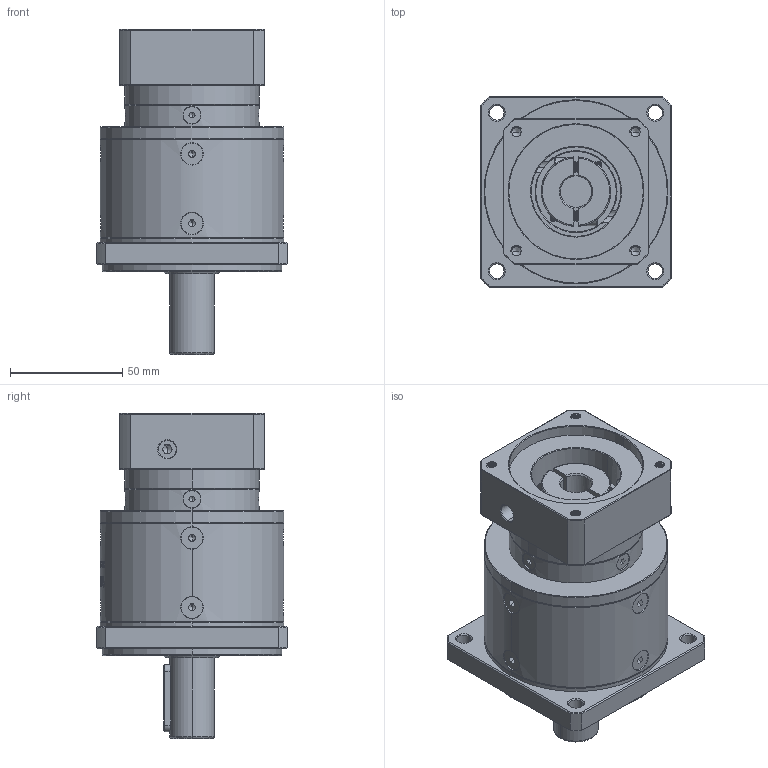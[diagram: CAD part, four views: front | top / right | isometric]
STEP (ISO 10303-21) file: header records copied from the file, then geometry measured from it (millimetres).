
FILE_DESCRIPTION (( 'STEP AP214' ), '1' );
FILE_NAME ('ZF80-D20-L2-14-60-75-M5.step', '2022-05-08T09:23:16', ( '' ), ( 'Microsoft' ), 'SwSTEP 2.0', 'SolidWorks 2016', '' );
FILE_SCHEMA (( 'AUTOMOTIVE_DESIGN' ));
Length unit declared in the file: millimetre
Products named in the file (1): ZF80-D20-L2-14-60-75-M5
Bounding box: 85 x 85 x 145 mm (x, y, z)
Volume: 481767.2 mm3; surface area: 70482.1 mm2
Topology: 18 solids, 18 shells, 2047 faces, 5349 edges, 3399 vertices
Faces by surface type: plane 953, cylinder 425, bspline 328, cone 327, torus 14
Entity records: 111013 total; most frequent: CARTESIAN_POINT 41715, ORIENTED_EDGE 10622, DIRECTION 8474, EDGE_CURVE 5311, VERTEX_POINT 3399, LINE 2872, VECTOR 2872, AXIS2_PLACEMENT_3D 2801
